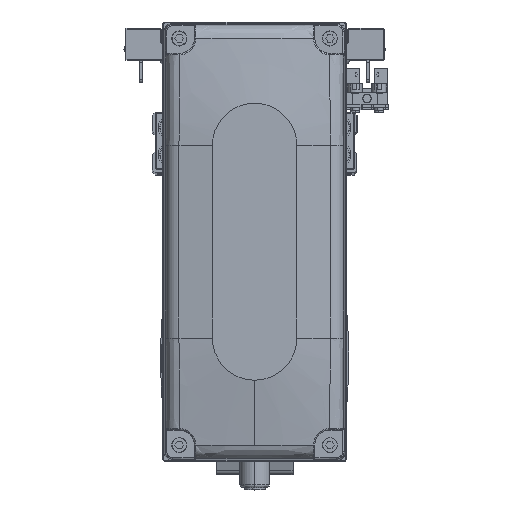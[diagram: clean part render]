
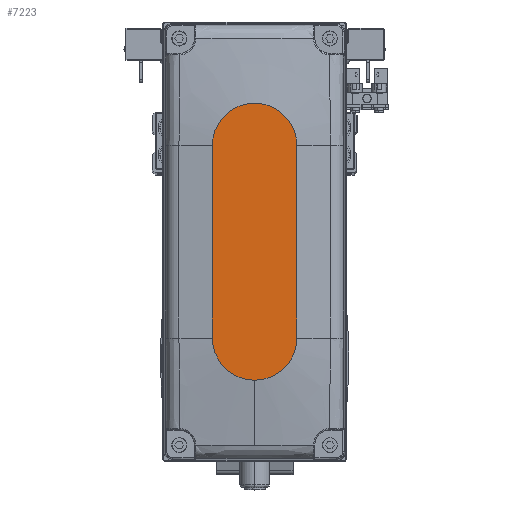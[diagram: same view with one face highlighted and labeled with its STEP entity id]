
A CAD part, top view. The second image highlights one B-rep face of the part: STEP entity #7223.
In plain terms, the highlighted planar face has unit normal (0, 0, 1).
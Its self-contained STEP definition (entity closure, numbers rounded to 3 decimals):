
#864 = CARTESIAN_POINT ( 'NONE',  ( 46., 0., 35. ) ) ;
#1392 = AXIS2_PLACEMENT_3D ( 'NONE', #36874, #6017, #19761 ) ;
#3893 = DIRECTION ( 'NONE',  ( 1., 0., 0. ) ) ;
#4423 = ORIENTED_EDGE ( 'NONE', *, *, #21557, .T. ) ;
#5439 = CARTESIAN_POINT ( 'NONE',  ( 32., 0., 35. ) ) ;
#6017 = DIRECTION ( 'NONE',  ( 0., 0., 1. ) ) ;
#6645 = VERTEX_POINT ( 'NONE', #27099 ) ;
#7223 = ADVANCED_FACE ( 'NONE', ( #15290 ), #29035, .T. ) ;
#9804 = DIRECTION ( 'NONE',  ( -1., 0., 0. ) ) ;
#10055 = AXIS2_PLACEMENT_3D ( 'NONE', #5439, #19186, #32928 ) ;
#11472 = ORIENTED_EDGE ( 'NONE', *, *, #12963, .T. ) ;
#11898 = DIRECTION ( 'NONE',  ( 0., 0., 1. ) ) ;
#12963 = EDGE_CURVE ( 'NONE', #40386, #42145, #20829, .T. ) ;
#13867 = CARTESIAN_POINT ( 'NONE',  ( -32., 0., 35. ) ) ;
#15290 = FACE_OUTER_BOUND ( 'NONE', #44482, .T. ) ;
#16954 = AXIS2_PLACEMENT_3D ( 'NONE', #13867, #27619, #41331 ) ;
#17901 = EDGE_CURVE ( 'NONE', #6645, #25996, #36368, .T. ) ;
#18427 = ORIENTED_EDGE ( 'NONE', *, *, #25169, .T. ) ;
#18607 = AXIS2_PLACEMENT_3D ( 'NONE', #42742, #11898, #25665 ) ;
#19186 = DIRECTION ( 'NONE',  ( 0., 0., 1. ) ) ;
#19394 = ORIENTED_EDGE ( 'NONE', *, *, #25020, .T. ) ;
#19761 = DIRECTION ( 'NONE',  ( 1., 0., 0. ) ) ;
#20829 = CIRCLE ( 'NONE', #1392, 14. ) ;
#21025 = LINE ( 'NONE', #34761, #24450 ) ;
#21557 = EDGE_CURVE ( 'NONE', #42145, #6645, #26926, .T. ) ;
#24450 = VECTOR ( 'NONE', #3893, 1000. ) ;
#25020 = EDGE_CURVE ( 'NONE', #25996, #39307, #21025, .T. ) ;
#25169 = EDGE_CURVE ( 'NONE', #39307, #40386, #29486, .T. ) ;
#25665 = DIRECTION ( 'NONE',  ( 1., 0., 0. ) ) ;
#25755 = CARTESIAN_POINT ( 'NONE',  ( -32., -14., 35. ) ) ;
#25996 = VERTEX_POINT ( 'NONE', #25755 ) ;
#26471 = VECTOR ( 'NONE', #9804, 1000. ) ;
#26926 = LINE ( 'NONE', #40646, #26471 ) ;
#27099 = CARTESIAN_POINT ( 'NONE',  ( -32., 14., 35. ) ) ;
#27619 = DIRECTION ( 'NONE',  ( 0., 0., 1. ) ) ;
#29035 = PLANE ( 'NONE',  #18607 ) ;
#29486 = CIRCLE ( 'NONE', #10055, 14. ) ;
#31188 = CARTESIAN_POINT ( 'NONE',  ( 32., 14., 35. ) ) ;
#32928 = DIRECTION ( 'NONE',  ( 1., 0., 0. ) ) ;
#33518 = ORIENTED_EDGE ( 'NONE', *, *, #17901, .T. ) ;
#34761 = CARTESIAN_POINT ( 'NONE',  ( -32., -14., 35. ) ) ;
#36144 = CARTESIAN_POINT ( 'NONE',  ( 32., -14., 35. ) ) ;
#36368 = CIRCLE ( 'NONE', #16954, 14. ) ;
#36874 = CARTESIAN_POINT ( 'NONE',  ( 32., 0., 35. ) ) ;
#39307 = VERTEX_POINT ( 'NONE', #36144 ) ;
#40386 = VERTEX_POINT ( 'NONE', #864 ) ;
#40646 = CARTESIAN_POINT ( 'NONE',  ( -32., 14., 35. ) ) ;
#41331 = DIRECTION ( 'NONE',  ( 1., 0., 0. ) ) ;
#42145 = VERTEX_POINT ( 'NONE', #31188 ) ;
#42742 = CARTESIAN_POINT ( 'NONE',  ( 0., 0., 35. ) ) ;
#44482 = EDGE_LOOP ( 'NONE', ( #4423, #33518, #19394, #18427, #11472 ) ) ;
